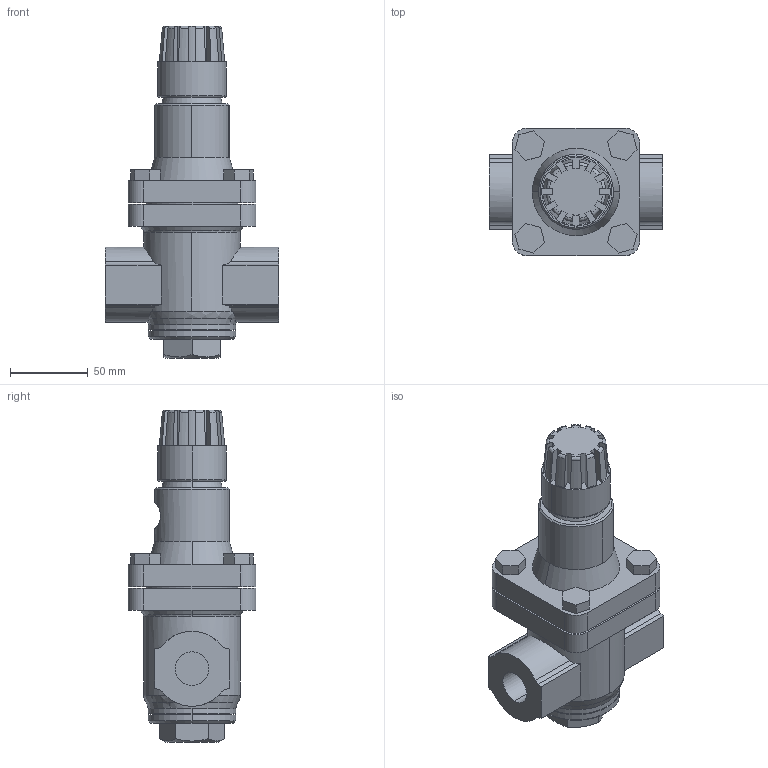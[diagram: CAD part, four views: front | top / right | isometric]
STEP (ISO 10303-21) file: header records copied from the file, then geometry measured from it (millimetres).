
FILE_DESCRIPTION( (''), '2;1');
FILE_NAME ('PC1276.4376.GD-45P 20A_14544.stp','2025-12-10T13:05:00',(''),(''),'spGate 20.6.3 (****-****-****-****)','','');
FILE_SCHEMA (('AUTOMOTIVE_DESIGN'));
Length unit declared in the file: millimetre
Bounding box: 111 x 82 x 212.9 mm (x, y, z)
Volume: 653763.6 mm3; surface area: 78144.4 mm2
Topology: 1 solids, 1 shells, 189 faces, 505 edges, 335 vertices
Faces by surface type: plane 94, cylinder 51, bspline 44
Entity records: 10879 total; most frequent: CARTESIAN_POINT 2486, ORIENTED_EDGE 1010, DIRECTION 826, COLOUR_RGB 695, PRESENTATION_STYLE_ASSIGNMENT 695, STYLED_ITEM 695, EDGE_CURVE 505, DRAUGHTING_PRE_DEFINED_CURVE_FONT 505
